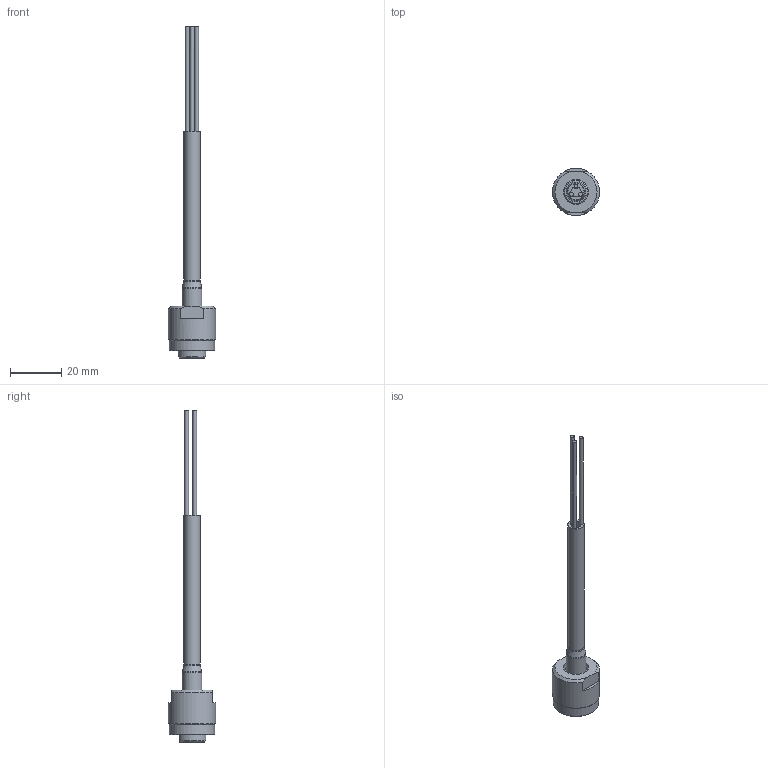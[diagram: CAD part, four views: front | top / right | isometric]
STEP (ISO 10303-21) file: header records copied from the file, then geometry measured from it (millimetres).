
FILE_DESCRIPTION (( 'STEP AP203' ), '1' );
FILE_NAME ('ASSY, CABLE, COBALT, SINGLE ENDED.STEP', '2022-10-26T18:04:48', ( '' ), ( '' ), 'SwSTEP 2.0', 'SolidWorks 2022', '' );
FILE_SCHEMA (( 'CONFIG_CONTROL_DESIGN' ));
Length unit declared in the file: millimetre
Products named in the file (1): ASSY, CABLE, COBALT, SINGLE ENDED
Bounding box: 18.5 x 18.5 x 130 mm (x, y, z)
Volume: 5494.7 mm3; surface area: 6838 mm2
Topology: 3 solids, 6 shells, 205 faces, 499 edges, 313 vertices
Faces by surface type: plane 77, cylinder 67, cone 42, torus 16, bspline 3
Full cylindrical faces by diameter (mm): 1.54 x3, 1.829 x3, 2.235 x3, 2.667 x3, 2.7 x3, 3.023 x3, 3.04 x3, 6.35 x1, 7.71 x1, 8.3 x1, 9.5 x1, 9.562 x1, 9.75 x1, 12 x2, 16 x1, 17.75 x1, 18.5 x1
Entity records: 7665 total; most frequent: CARTESIAN_POINT 3255, DIRECTION 865, ORIENTED_EDGE 854, EDGE_CURVE 427, AXIS2_PLACEMENT_3D 384, VERTEX_POINT 292, EDGE_LOOP 289, FACE_OUTER_BOUND 239
